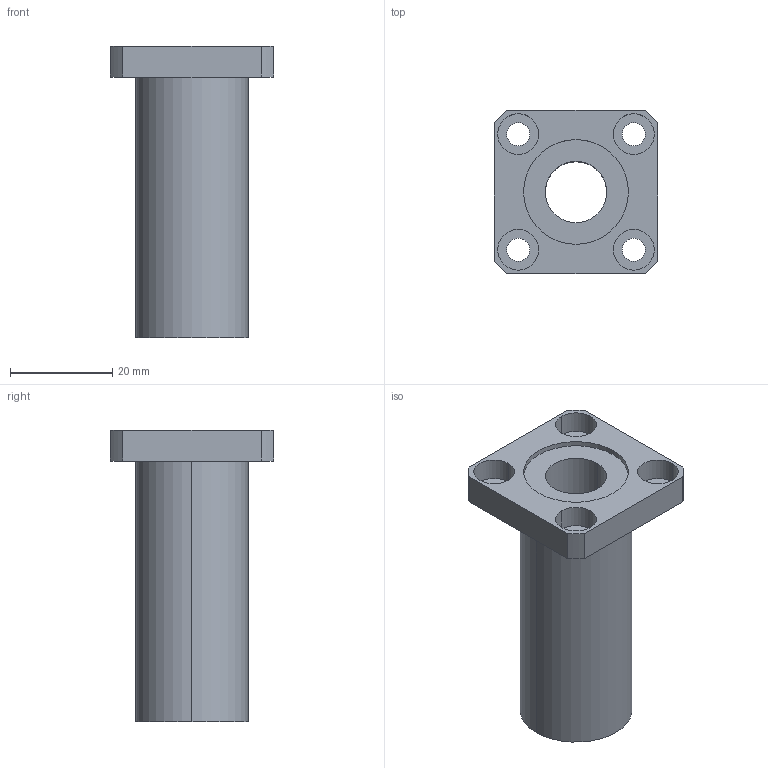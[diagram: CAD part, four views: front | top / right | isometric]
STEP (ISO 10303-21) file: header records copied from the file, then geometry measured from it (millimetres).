
FILE_DESCRIPTION((''),'2;1');
FILE_NAME('C:\Documents and Settings\ｿﾀﾀ蠑ｷ1\ｹﾙﾅﾁ ﾈｭｸ饅\ｺﾎﾇｰﾆﾄﾀﾏ\ﾁｦﾇｰ\LMEK__LUU\LMEK12LUU.stp','2005-06-15T11:00:55',('ｿﾀﾀ蠑ｷ1'),(''),'Autodesk Inventor 9','Autodesk Inventor 9','');
FILE_SCHEMA(('AUTOMOTIVE_DESIGN { 1 0 10303 214 1 1 1 1 }'));
Length unit declared in the file: millimetre
Products named in the file (1): LMEK__(L)
Bounding box: 32 x 32 x 57 mm (x, y, z)
Volume: 17598.6 mm3; surface area: 8667 mm2
Topology: 1 solids, 1 shells, 41 faces, 96 edges, 64 vertices
Faces by surface type: bspline 20, cylinder 12, plane 9
Entity records: 1457 total; most frequent: CARTESIAN_POINT 486, DIRECTION 196, ORIENTED_EDGE 192, EDGE_CURVE 96, AXIS2_PLACEMENT_3D 78, VERTEX_POINT 64, EDGE_LOOP 58, CIRCLE 56
